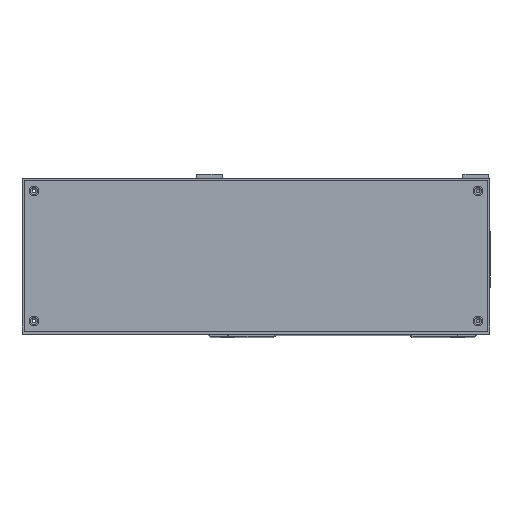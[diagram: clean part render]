
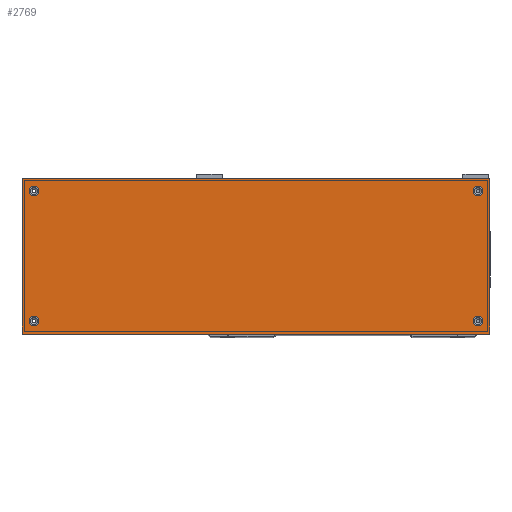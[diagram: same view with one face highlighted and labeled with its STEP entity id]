
A CAD part, top view. The second image highlights one B-rep face of the part: STEP entity #2769.
In plain terms, the highlighted planar face has unit normal (0, 0, 1).
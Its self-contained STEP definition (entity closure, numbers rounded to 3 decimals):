
#1115=FACE_BOUND('',#4804,.T.);
#1116=FACE_BOUND('',#4805,.T.);
#1117=FACE_BOUND('',#4806,.T.);
#1118=FACE_BOUND('',#4807,.T.);
#1119=FACE_BOUND('',#4808,.T.);
#2001=CIRCLE('',#15933,2.25);
#2002=CIRCLE('',#15934,2.25);
#2003=CIRCLE('',#15935,2.25);
#2004=CIRCLE('',#15936,2.25);
#2769=ADVANCED_FACE('',(#1115,#1116,#1117,#1118,#1119),#3350,.F.);
#3350=PLANE('',#15937);
#4804=EDGE_LOOP('',(#7687));
#4805=EDGE_LOOP('',(#7688));
#4806=EDGE_LOOP('',(#7689));
#4807=EDGE_LOOP('',(#7690));
#4808=EDGE_LOOP('',(#7691,#7692,#7693,#7694));
#7687=ORIENTED_EDGE('',*,*,#12170,.F.);
#7688=ORIENTED_EDGE('',*,*,#12171,.F.);
#7689=ORIENTED_EDGE('',*,*,#12172,.F.);
#7690=ORIENTED_EDGE('',*,*,#12173,.F.);
#7691=ORIENTED_EDGE('',*,*,#11150,.F.);
#7692=ORIENTED_EDGE('',*,*,#12174,.F.);
#7693=ORIENTED_EDGE('',*,*,#12175,.F.);
#7694=ORIENTED_EDGE('',*,*,#11124,.F.);
#9619=VERTEX_POINT('',#22121);
#9620=VERTEX_POINT('',#22123);
#9637=VERTEX_POINT('',#22171);
#10323=VERTEX_POINT('',#26285);
#10324=VERTEX_POINT('',#26287);
#10325=VERTEX_POINT('',#26289);
#10326=VERTEX_POINT('',#26291);
#10327=VERTEX_POINT('',#26293);
#11124=EDGE_CURVE('',#9619,#9620,#12935,.T.);
#11150=EDGE_CURVE('',#9637,#9619,#12958,.T.);
#12170=EDGE_CURVE('',#10323,#10323,#2001,.T.);
#12171=EDGE_CURVE('',#10324,#10324,#2002,.T.);
#12172=EDGE_CURVE('',#10325,#10325,#2003,.T.);
#12173=EDGE_CURVE('',#10326,#10326,#2004,.T.);
#12174=EDGE_CURVE('',#10327,#9637,#13529,.T.);
#12175=EDGE_CURVE('',#9620,#10327,#13530,.T.);
#12935=LINE('',#22122,#14003);
#12958=LINE('',#22172,#14026);
#13529=LINE('',#26292,#14597);
#13530=LINE('',#26294,#14598);
#14003=VECTOR('',#17164,1.);
#14026=VECTOR('',#17205,1.);
#14597=VECTOR('',#19398,1.);
#14598=VECTOR('',#19399,1.);
#15933=AXIS2_PLACEMENT_3D('',#26284,#19390,#19391);
#15934=AXIS2_PLACEMENT_3D('',#26286,#19392,#19393);
#15935=AXIS2_PLACEMENT_3D('',#26288,#19394,#19395);
#15936=AXIS2_PLACEMENT_3D('',#26290,#19396,#19397);
#15937=AXIS2_PLACEMENT_3D('',#26295,#19400,#19401);
#17164=DIRECTION('',(-1.,0.,0.));
#17205=DIRECTION('',(0.,-1.,0.));
#19390=DIRECTION('',(0.,0.,1.));
#19391=DIRECTION('',(-1.,0.,0.));
#19392=DIRECTION('',(0.,0.,1.));
#19393=DIRECTION('',(1.,0.,0.));
#19394=DIRECTION('',(0.,0.,1.));
#19395=DIRECTION('',(-1.,0.,0.));
#19396=DIRECTION('',(0.,0.,1.));
#19397=DIRECTION('',(1.,0.,0.));
#19398=DIRECTION('',(1.,0.,0.));
#19399=DIRECTION('',(0.,1.,0.));
#19400=DIRECTION('',(0.,0.,-1.));
#19401=DIRECTION('',(1.,0.,0.));
#22121=CARTESIAN_POINT('',(68.,0.,193.));
#22122=CARTESIAN_POINT('',(68.,0.,193.));
#22123=CARTESIAN_POINT('',(-148.,0.,193.));
#22171=CARTESIAN_POINT('',(68.,72.,193.));
#22172=CARTESIAN_POINT('',(68.,72.,193.));
#26284=CARTESIAN_POINT('',(-142.5,6.,193.));
#26285=CARTESIAN_POINT('',(-144.75,6.,193.));
#26286=CARTESIAN_POINT('',(62.5,6.,193.));
#26287=CARTESIAN_POINT('',(64.75,6.,193.));
#26288=CARTESIAN_POINT('',(62.5,66.,193.));
#26289=CARTESIAN_POINT('',(60.25,66.,193.));
#26290=CARTESIAN_POINT('',(-142.5,66.,193.));
#26291=CARTESIAN_POINT('',(-140.25,66.,193.));
#26292=CARTESIAN_POINT('',(68.,72.,193.));
#26293=CARTESIAN_POINT('',(-148.,72.,193.));
#26294=CARTESIAN_POINT('',(-148.,72.,193.));
#26295=CARTESIAN_POINT('',(-40.,36.,193.));
